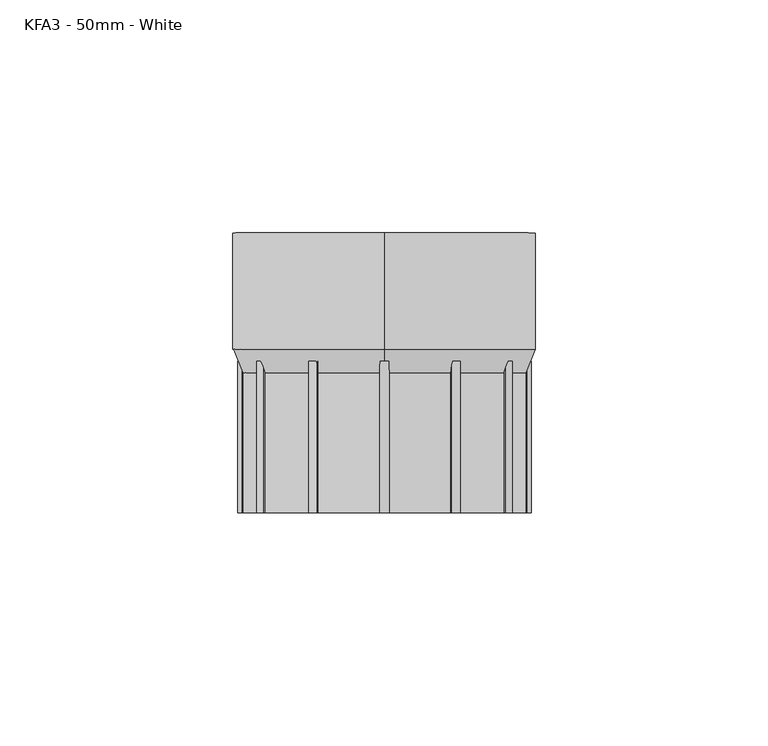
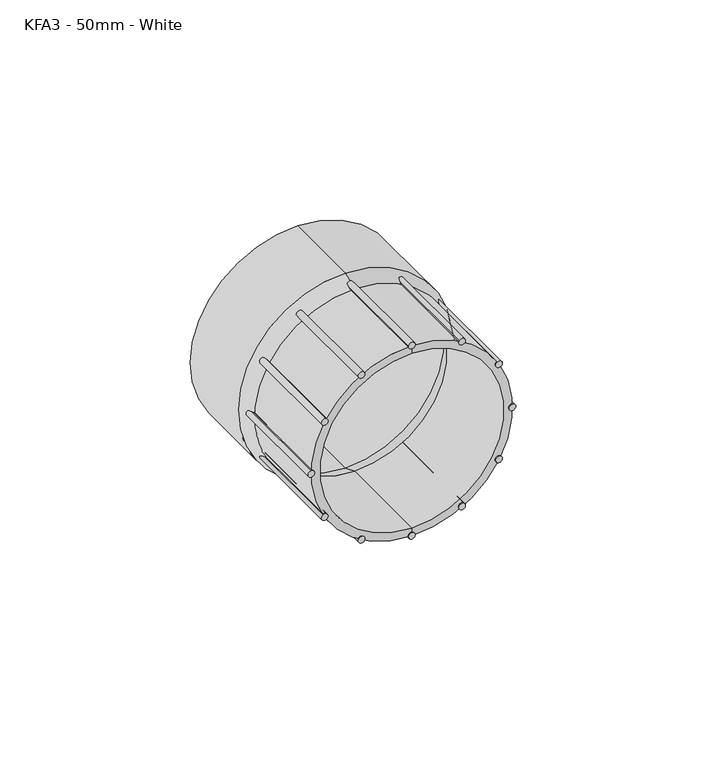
"""IFC4 building model written with IfcOpenShell, lengths in millimetres: pipe fitting geometry, MarleyPlumbingAndDrainage_PipeFitting_FemaleIronAdaptor : KFA3 - 50mm - White."""

import ifcopenshell
import ifcopenshell.guid

model = None  # the IFC model being written
_history = None  # IfcOwnerHistory: only IFC2X3 demands one
_inside = {}  # id of a spatial element -> (the spatial element, [elements in it])
_under = {}  # id of a project, library or spatial element -> (it, [spatial elements below it])
_declared = {}  # id of a project -> (the project, [libraries it declares])
_typed = {}  # id of a type object -> (the type object, [elements of that type])
_made_of = {}  # id of a material, layer set ... -> (it, [elements and type objects made of it])


def new_model(schema):
    """Start an empty IFC model of exactly this schema.

    Asked for "IFC4X3", IfcOpenShell would pick the latest addendum, in which some entities
    have other attributes; the version numbers below select the first issue.
    IFC2X3 requires an IfcOwnerHistory on every rooted entity: one is made here for all.
    """
    global model, _history
    if schema == "IFC4X3":
        model = ifcopenshell.file(schema_version=(4, 3, 0, 0))
    else:
        model = ifcopenshell.file(schema=schema)
    _inside.clear()
    _under.clear()
    _declared.clear()
    _typed.clear()
    _made_of.clear()
    _history = None
    if model.schema == "IFC2X3":
        org = make("IfcOrganization", Name="unknown")
        user = make(
            "IfcPersonAndOrganization",
            ThePerson=make("IfcPerson", FamilyName="unknown"),
            TheOrganization=org,
        )
        app = make(
            "IfcApplication",
            ApplicationDeveloper=org,
            Version="unknown",
            ApplicationFullName="unknown",
            ApplicationIdentifier="unknown",
        )
        _history = make(
            "IfcOwnerHistory",
            OwningUser=user,
            OwningApplication=app,
            ChangeAction="ADDED",
            CreationDate=0,
        )
    return model


def make(cls, **values):
    """One entity of the class cls with the attributes given. An attribute that is None is left unset."""
    return model.create_entity(
        cls, **{name: value for name, value in values.items() if value is not None}
    )


def rooted(cls, **values):
    """An entity with a GlobalId (a new one), such as an element, a storey or a relation."""
    return make(cls, GlobalId=ifcopenshell.guid.new(), OwnerHistory=_history, **values)


def si_unit(unit_type, name, prefix=None):
    """IfcSIUnit, for example si_unit("LENGTHUNIT", "METRE", prefix="MILLI")."""
    return make("IfcSIUnit", UnitType=unit_type, Prefix=prefix, Name=name)


def assignment(units):
    """IfcUnitAssignment: the units of a project."""
    return None if units is None else make("IfcUnitAssignment", Units=units)


def point(xyz):
    """IfcCartesianPoint."""
    return None if xyz is None else make("IfcCartesianPoint", Coordinates=xyz)


def direction(xyz):
    """IfcDirection."""
    return None if xyz is None else make("IfcDirection", DirectionRatios=xyz)


def frame(location, z_axis=None, x_axis=None):
    """IfcAxis2Placement3D, a coordinate frame: its origin and axes. An axis left out is left unset."""
    return make(
        "IfcAxis2Placement3D",
        Location=point(location),
        Axis=direction(z_axis),
        RefDirection=direction(x_axis),
    )


def frame_2d(location, x_axis=None):
    """IfcAxis2Placement2D, a coordinate frame in the plane: its origin and x axis."""
    return make(
        "IfcAxis2Placement2D", Location=point(location), RefDirection=direction(x_axis)
    )


def origin():
    """The frame at (0, 0, 0) with its axes left unset."""
    return frame((0.0, 0.0, 0.0))


def place(relative_to, where):
    """IfcLocalPlacement: puts the frame where relative to a parent placement (None: the world)."""
    return make(
        "IfcLocalPlacement", PlacementRelTo=relative_to, RelativePlacement=where
    )


def context(
    kind, dimensions, precision=None, world=None, true_north=None, identifier=None
):
    """IfcGeometricRepresentationContext, for example the 3D "Model" context."""
    return make(
        "IfcGeometricRepresentationContext",
        ContextIdentifier=identifier,
        ContextType=kind,
        CoordinateSpaceDimension=dimensions,
        Precision=precision,
        WorldCoordinateSystem=world,
        TrueNorth=true_north,
    )


def project(units=None, contexts=None):
    """IfcProject with its units and contexts."""
    return rooted(
        "IfcProject",
        Name="project",
        RepresentationContexts=contexts,
        UnitsInContext=assignment(units),
    )


def spatial(cls, under=None, at=None, **own):
    """A site, building, storey or space (cls), placed at a placement, below another one or the project."""
    s = rooted(cls, ObjectPlacement=at, **own)
    if under is not None:
        _under.setdefault(under.id(), (under, []))[1].append(s)
    return s


def polyline(points):
    """IfcPolyline through the points."""
    return make("IfcPolyline", Points=[point(p) for p in points])


def circle_curve(where, radius):
    """IfcCircle in the frame where."""
    return make("IfcCircle", Position=where, Radius=radius)


def trimmed(basis, trim1, trim2, sense, master):
    """IfcTrimmedCurve: the piece of a basis curve between two trims."""
    return make(
        "IfcTrimmedCurve",
        BasisCurve=basis,
        Trim1=trim1,
        Trim2=trim2,
        SenseAgreement=sense,
        MasterRepresentation=master,
    )


def segment(curve, same_sense, transition):
    """IfcCompositeCurveSegment."""
    return make(
        "IfcCompositeCurveSegment",
        Transition=transition,
        SameSense=same_sense,
        ParentCurve=curve,
    )


def composite_curve(segments, self_intersect=None):
    """IfcCompositeCurve: segments joined end to end."""
    return make("IfcCompositeCurve", Segments=segments, SelfIntersect=self_intersect)


def outline(outer, holes=None, kind="AREA"):
    """IfcArbitraryClosedProfileDef: a profile drawn as a closed curve; with holes, ...WithVoids."""
    if holes is None:
        return make("IfcArbitraryClosedProfileDef", ProfileType=kind, OuterCurve=outer)
    return make(
        "IfcArbitraryProfileDefWithVoids",
        ProfileType=kind,
        OuterCurve=outer,
        InnerCurves=holes,
    )


def extrude(swept, where, along, depth):
    """IfcExtrudedAreaSolid: the profile swept, set in the frame where, extruded along a direction by depth."""
    return make(
        "IfcExtrudedAreaSolid",
        SweptArea=swept,
        Position=where,
        ExtrudedDirection=direction(along),
        Depth=depth,
    )


def shape(context_of_items, identifier, shape_type, items):
    """IfcShapeRepresentation: the items that make up one representation, for example the "Body"."""
    return make(
        "IfcShapeRepresentation",
        ContextOfItems=context_of_items,
        RepresentationIdentifier=identifier,
        RepresentationType=shape_type,
        Items=items,
    )


def source(mapping_origin, context_of_items, identifier, shape_type, items):
    """IfcRepresentationMap: a shape defined once, which mapped items show again and again."""
    return make(
        "IfcRepresentationMap",
        MappingOrigin=mapping_origin,
        MappedRepresentation=shape(context_of_items, identifier, shape_type, items),
    )


def transform(
    local_origin,
    x_axis=None,
    y_axis=None,
    z_axis=None,
    scale=None,
    scale2=None,
    scale3=None,
    uniform=True,
):
    """IfcCartesianTransformationOperator3D, or its non-uniform kind. x_axis, y_axis, z_axis: its Axis1, 2, 3."""
    if uniform:
        return make(
            "IfcCartesianTransformationOperator3D",
            Axis1=direction(x_axis),
            Axis2=direction(y_axis),
            LocalOrigin=point(local_origin),
            Scale=scale,
            Axis3=direction(z_axis),
        )
    return make(
        "IfcCartesianTransformationOperator3DnonUniform",
        Axis1=direction(x_axis),
        Axis2=direction(y_axis),
        LocalOrigin=point(local_origin),
        Scale=scale,
        Axis3=direction(z_axis),
        Scale2=scale2,
        Scale3=scale3,
    )


def mapped(mapping_source, mapping_target):
    """IfcMappedItem: shows the shape of a source again, moved by a transform."""
    return make(
        "IfcMappedItem", MappingSource=mapping_source, MappingTarget=mapping_target
    )


def made_of(thing, what):
    """Note that an element or type object is made of a material, layer set ...; save() writes the relation."""
    if what is not None:
        _made_of.setdefault(what.id(), (what, []))[1].append(thing)
    return thing


def element(
    cls,
    number,
    at=None,
    inside=None,
    cuts=None,
    type_object=None,
    material=None,
    context=None,
    identifier="Body",
    shape_type=None,
    held_by="IfcProductDefinitionShape",
    body=None,
    shapes=None,
    **own,
):
    """One element of the class cls, such as IfcWall. Its Tag is "e" and its number.

    at: its placement. inside: the storey or other place that contains it. cuts: it is an
    opening in that element (IfcRelVoidsElement). A single representation is given by context,
    identifier, shape_type and body (its items); several are given by shapes. held_by: the class
    of the entity that holds the representations. save() writes the other relations.
    """
    e = rooted(cls, Tag="e%d" % number, ObjectPlacement=at, **own)
    if body is not None:
        shapes = [shape(context, identifier, shape_type, body)]
    if shapes is not None:
        e.Representation = make(held_by, Representations=shapes)
    if inside is not None:
        _inside.setdefault(inside.id(), (inside, []))[1].append(e)
    if cuts is not None:
        rooted(
            "IfcRelVoidsElement", RelatingBuildingElement=cuts, RelatedOpeningElement=e
        )
    if type_object is not None:
        _typed.setdefault(type_object.id(), (type_object, []))[1].append(e)
    return made_of(e, material)


def aggregate(whole, parts):
    """IfcRelAggregates: a whole, such as a stair, and the parts it consists of."""
    return rooted("IfcRelAggregates", RelatingObject=whole, RelatedObjects=parts)


def save(model, path):
    """Write the relations noted so far, then the file.

    IfcRelAggregates (storeys below a building ...), IfcRelContainedInSpatialStructure (elements
    in a storey), IfcRelDefinesByType, IfcRelAssociatesMaterial and IfcRelDeclares: one each for
    every whole, place, type object, material and project.
    """
    for whole, parts in _under.values():
        aggregate(whole, parts)
    for where, things in _inside.values():
        rooted(
            "IfcRelContainedInSpatialStructure",
            RelatedElements=things,
            RelatingStructure=where,
        )
    for kind, things in _typed.values():
        rooted("IfcRelDefinesByType", RelatedObjects=things, RelatingType=kind)
    for what, things in _made_of.values():
        rooted("IfcRelAssociatesMaterial", RelatedObjects=things, RelatingMaterial=what)
    for by, libraries in _declared.values():
        rooted("IfcRelDeclares", RelatingContext=by, RelatedDefinitions=libraries)
    model.write(path)


def plane_surface(at):
    """IfcPlane: the flat surface through the origin of the frame at, square to its z axis."""
    return make("IfcPlane", Position=at)


def cylinder_surface(at, radius):
    """IfcCylindricalSurface: all points at the distance radius from the z axis of the frame at."""
    return make("IfcCylindricalSurface", Position=at, Radius=radius)


def revolved_surface(curve, axis_point, axis_direction):
    """IfcSurfaceOfRevolution: the curve turned about the line through axis_point along axis_direction."""
    return make(
        "IfcSurfaceOfRevolution",
        SweptCurve=make("IfcArbitraryOpenProfileDef", ProfileType="CURVE", Curve=curve),
        AxisPosition=make("IfcAxis1Placement", Location=point(axis_point), Axis=direction(axis_direction)),
    )


def advanced_brep(points, edges, surfaces, faces):
    """IfcAdvancedBrep: a solid bounded by faces that lie on surfaces and meet in shared edges.

    An edge is (start, end): straight between two places in points (the first is 0);
    or (start, end, curve); or (start, end, curve, False) where it runs against its curve.
    A face is (place in surfaces, loops), or (place, loops, False) where it looks against
    its surface's normal. A loop lists edges by number (the first is 1), with a minus sign
    where the edge is run from its end to its start. The first loop is the outer one.
    """
    corners = [point(p) for p in points]
    vertices = [make("IfcVertexPoint", VertexGeometry=c) for c in corners]
    made = []
    for start, end, *more in edges:
        made.append(
            make(
                "IfcEdgeCurve",
                EdgeStart=vertices[start],
                EdgeEnd=vertices[end],
                EdgeGeometry=more[0] if more else make("IfcPolyline", Points=[corners[start], corners[end]]),
                SameSense=more[1] if len(more) > 1 else True,
            )
        )
    hull = []
    for where, loops, *sense in faces:
        bounds = []
        for j, loop in enumerate(loops):
            ring = [make("IfcOrientedEdge", EdgeElement=made[abs(k) - 1], Orientation=k > 0) for k in loop]
            bounds.append(
                make(
                    "IfcFaceOuterBound" if j == 0 else "IfcFaceBound",
                    Bound=make("IfcEdgeLoop", EdgeList=ring),
                    Orientation=True,
                )
            )
        hull.append(make("IfcAdvancedFace", Bounds=bounds, FaceSurface=surfaces[where], SameSense=sense[0] if sense else True))
    return make("IfcAdvancedBrep", Outer=make("IfcClosedShell", CfsFaces=hull))


def kfa3_50mm_white_a62e5cf9(model_context):
    return source(origin(), model_context, "Body", "SolidModel", [
        extrude(outline(composite_curve([segment(trimmed(circle_curve(frame_2d((15.25, 11.588393)), 1.0), [point((16.1160254, 11.088393))], [point((14.3839746, 12.088393))], False, "CARTESIAN"), True, "CONTINUOUS"), segment(trimmed(circle_curve(frame_2d((15.25, 11.588393)), 1.0), [point((14.3839746, 12.088393))], [point((16.1160254, 11.088393))], False, "CARTESIAN"), True, "CONTINUOUS")], self_intersect=False)), frame((0.0, -35.0, 0.0), z_axis=(0.0, 1.0, 0.0), x_axis=(0.0, 0.0, 1.0)), (0.0, 0.0, 1.0), 32.5),
        extrude(outline(composite_curve([segment(trimmed(circle_curve(frame_2d((0.0, 15.6746182)), 1.0), [point((1.0, 15.6746182))], [point((-1.0, 15.6746182))], False, "CARTESIAN"), True, "CONTINUOUS"), segment(trimmed(circle_curve(frame_2d((0.0, 15.6746182)), 1.0), [point((-1.0, 15.6746182))], [point((1.0, 15.6746182))], False, "CARTESIAN"), True, "CONTINUOUS")], self_intersect=False)), frame((0.0, -35.0, 0.0), z_axis=(0.0, 1.0, 0.0), x_axis=(0.0, 0.0, 1.0)), (0.0, 0.0, 1.0), 32.5),
        extrude(outline(composite_curve([segment(trimmed(circle_curve(frame_2d((-15.25, 11.588393)), 1.0), [point((-14.3839746, 12.088393))], [point((-16.1160254, 11.088393))], False, "CARTESIAN"), True, "CONTINUOUS"), segment(trimmed(circle_curve(frame_2d((-15.25, 11.588393)), 1.0), [point((-16.1160254, 11.088393))], [point((-14.3839746, 12.088393))], False, "CARTESIAN"), True, "CONTINUOUS")], self_intersect=False)), frame((0.0, -35.0, 0.0), z_axis=(0.0, 1.0, 0.0), x_axis=(0.0, 0.0, 1.0)), (0.0, 0.0, 1.0), 32.5),
        extrude(outline(composite_curve([segment(trimmed(circle_curve(frame_2d((-26.4137748, 0.4246182)), 1.0), [point((-25.9137748, 1.2906436))], [point((-26.9137748, -0.4414072))], False, "CARTESIAN"), True, "CONTINUOUS"), segment(trimmed(circle_curve(frame_2d((-26.4137748, 0.4246182)), 1.0), [point((-26.9137748, -0.4414072))], [point((-25.9137748, 1.2906436))], False, "CARTESIAN"), True, "CONTINUOUS")], self_intersect=False)), frame((0.0, -35.0, 0.0), z_axis=(0.0, 1.0, 0.0), x_axis=(0.0, 0.0, 1.0)), (0.0, 0.0, 1.0), 32.5),
        extrude(outline(composite_curve([segment(trimmed(circle_curve(frame_2d((-30.5, -14.8253818)), 1.0), [point((-30.5, -13.8253818))], [point((-30.5, -15.8253818))], False, "CARTESIAN"), True, "CONTINUOUS"), segment(trimmed(circle_curve(frame_2d((-30.5, -14.8253818)), 1.0), [point((-30.5, -15.8253818))], [point((-30.5, -13.8253818))], False, "CARTESIAN"), True, "CONTINUOUS")], self_intersect=False)), frame((0.0, -35.0, 0.0), z_axis=(0.0, 1.0, 0.0), x_axis=(0.0, 0.0, 1.0)), (0.0, 0.0, 1.0), 32.5),
        extrude(outline(composite_curve([segment(trimmed(circle_curve(frame_2d((-26.4137748, -30.0753818)), 1.0), [point((-26.9137748, -29.2093564))], [point((-25.9137748, -30.9414072))], False, "CARTESIAN"), True, "CONTINUOUS"), segment(trimmed(circle_curve(frame_2d((-26.4137748, -30.0753818)), 1.0), [point((-25.9137748, -30.9414072))], [point((-26.9137748, -29.2093564))], False, "CARTESIAN"), True, "CONTINUOUS")], self_intersect=False)), frame((0.0, -35.0, 0.0), z_axis=(0.0, 1.0, 0.0), x_axis=(0.0, 0.0, 1.0)), (0.0, 0.0, 1.0), 32.5),
        extrude(outline(composite_curve([segment(trimmed(circle_curve(frame_2d((-15.25, -41.2391566)), 1.0), [point((-16.1160254, -40.7391566))], [point((-14.3839746, -41.7391566))], False, "CARTESIAN"), True, "CONTINUOUS"), segment(trimmed(circle_curve(frame_2d((-15.25, -41.2391566)), 1.0), [point((-14.3839746, -41.7391566))], [point((-16.1160254, -40.7391566))], False, "CARTESIAN"), True, "CONTINUOUS")], self_intersect=False)), frame((0.0, -35.0, 0.0), z_axis=(0.0, 1.0, 0.0), x_axis=(0.0, 0.0, 1.0)), (0.0, 0.0, 1.0), 32.5),
        extrude(outline(composite_curve([segment(trimmed(circle_curve(frame_2d((0.0, -45.3253818)), 1.0), [point((-1.0, -45.3253818))], [point((1.0, -45.3253818))], False, "CARTESIAN"), True, "CONTINUOUS"), segment(trimmed(circle_curve(frame_2d((0.0, -45.3253818)), 1.0), [point((1.0, -45.3253818))], [point((-1.0, -45.3253818))], False, "CARTESIAN"), True, "CONTINUOUS")], self_intersect=False)), frame((0.0, -35.0, 0.0), z_axis=(0.0, 1.0, 0.0), x_axis=(0.0, 0.0, 1.0)), (0.0, 0.0, 1.0), 32.5),
        extrude(outline(composite_curve([segment(trimmed(circle_curve(frame_2d((15.25, -41.2391566)), 1.0), [point((14.3839746, -41.7391566))], [point((16.1160254, -40.7391566))], False, "CARTESIAN"), True, "CONTINUOUS"), segment(trimmed(circle_curve(frame_2d((15.25, -41.2391566)), 1.0), [point((16.1160254, -40.7391566))], [point((14.3839746, -41.7391566))], False, "CARTESIAN"), True, "CONTINUOUS")], self_intersect=False)), frame((0.0, -35.0, 0.0), z_axis=(0.0, 1.0, 0.0), x_axis=(0.0, 0.0, 1.0)), (0.0, 0.0, 1.0), 32.5),
        extrude(outline(composite_curve([segment(trimmed(circle_curve(frame_2d((26.4137748, -30.0753818)), 1.0), [point((25.9137748, -30.9414072))], [point((26.9137748, -29.2093564))], False, "CARTESIAN"), True, "CONTINUOUS"), segment(trimmed(circle_curve(frame_2d((26.4137748, -30.0753818)), 1.0), [point((26.9137748, -29.2093564))], [point((25.9137748, -30.9414072))], False, "CARTESIAN"), True, "CONTINUOUS")], self_intersect=False)), frame((0.0, -35.0, 0.0), z_axis=(0.0, 1.0, 0.0), x_axis=(0.0, 0.0, 1.0)), (0.0, 0.0, 1.0), 32.5),
        extrude(outline(composite_curve([segment(trimmed(circle_curve(frame_2d((26.4137748, 0.4246182)), 1.0), [point((26.9137748, -0.4414072))], [point((25.9137748, 1.2906436))], False, "CARTESIAN"), True, "CONTINUOUS"), segment(trimmed(circle_curve(frame_2d((26.4137748, 0.4246182)), 1.0), [point((25.9137748, 1.2906436))], [point((26.9137748, -0.4414072))], False, "CARTESIAN"), True, "CONTINUOUS")], self_intersect=False)), frame((0.0, -35.0, 0.0), z_axis=(0.0, 1.0, 0.0), x_axis=(0.0, 0.0, 1.0)), (0.0, 0.0, 1.0), 32.5),
        extrude(outline(composite_curve([segment(trimmed(circle_curve(frame_2d((30.5, -14.8253818)), 1.0), [point((30.5, -15.8253818))], [point((30.5, -13.8253818))], False, "CARTESIAN"), True, "CONTINUOUS"), segment(trimmed(circle_curve(frame_2d((30.5, -14.8253818)), 1.0), [point((30.5, -13.8253818))], [point((30.5, -15.8253818))], False, "CARTESIAN"), True, "CONTINUOUS")], self_intersect=False)), frame((0.0, -35.0, 0.0), z_axis=(0.0, 1.0, 0.0), x_axis=(0.0, 0.0, 1.0)), (0.0, 0.0, 1.0), 32.5),
        advanced_brep(
        [(-14.8253818, -35.0, -28.0), (-14.8253818, -35.0, 28.0), (-14.8253818, -35.0, 30.5), (-14.8253818, -35.0, -30.5), (-14.8253818, -5.0, -28.0), (-14.8253818, -5.0, 28.0), (-14.8253818, 0.0, -30.0), (-14.8253818, 0.0, 30.0), (-14.8253818, 25.0, -30.0), (-14.8253818, 25.0, 30.0), (-14.8253818, 25.0, -32.5), (-14.8253818, 25.0, 32.5), (-14.8253818, 0.0, -32.5), (-14.8253818, 0.0, 32.5), (-14.8253818, -5.0, -30.5), (-14.8253818, -5.0, 30.5)],
        [
            (0, 1, circle_curve(frame((-14.8253818, -35.0, 0.0), z_axis=(0.0, 1.0, 0.0), x_axis=(0.0, 0.0, 1.0)), 28.0)),
            (1, 2),
            (2, 3, circle_curve(frame((-14.8253818, -35.0, 0.0), z_axis=(0.0, -1.0, 0.0), x_axis=(0.0, 0.0, 1.0)), 30.5)),
            (3, 0),
            (1, 0, circle_curve(frame((-14.8253818, -35.0, 0.0), z_axis=(0.0, 1.0, 0.0), x_axis=(0.0, 0.0, 1.0)), 28.0)),
            (3, 2, circle_curve(frame((-14.8253818, -35.0, 0.0), z_axis=(0.0, -1.0, 0.0), x_axis=(0.0, 0.0, 1.0)), 30.5)),
            (4, 5, circle_curve(frame((-14.8253818, -5.0, 0.0), z_axis=(0.0, 1.0, 0.0), x_axis=(0.0, 0.0, 1.0)), 28.0)),
            (5, 1),
            (0, 4),
            (5, 4, circle_curve(frame((-14.8253818, -5.0, 0.0), z_axis=(0.0, 1.0, 0.0), x_axis=(0.0, 0.0, 1.0)), 28.0)),
            (6, 7, circle_curve(frame((-14.8253818, 0.0, 0.0), z_axis=(0.0, 1.0, 0.0), x_axis=(0.0, 0.0, 1.0)), 30.0)),
            (7, 5),
            (4, 6),
            (7, 6, circle_curve(frame((-14.8253818, 0.0, 0.0), z_axis=(0.0, 1.0, 0.0), x_axis=(0.0, 0.0, 1.0)), 30.0)),
            (8, 9, circle_curve(frame((-14.8253818, 25.0, 0.0), z_axis=(0.0, 1.0, 0.0), x_axis=(0.0, 0.0, 1.0)), 30.0)),
            (9, 7),
            (6, 8),
            (9, 8, circle_curve(frame((-14.8253818, 25.0, 0.0), z_axis=(0.0, 1.0, 0.0), x_axis=(0.0, 0.0, 1.0)), 30.0)),
            (10, 11, circle_curve(frame((-14.8253818, 25.0, 0.0), z_axis=(0.0, 1.0, 0.0), x_axis=(0.0, 0.0, 1.0)), 32.5)),
            (11, 9),
            (8, 10),
            (11, 10, circle_curve(frame((-14.8253818, 25.0, 0.0), z_axis=(0.0, 1.0, 0.0), x_axis=(0.0, 0.0, 1.0)), 32.5)),
            (12, 13, circle_curve(frame((-14.8253818, 0.0, 0.0), z_axis=(0.0, 1.0, 0.0), x_axis=(0.0, 0.0, 1.0)), 32.5)),
            (13, 11),
            (10, 12),
            (13, 12, circle_curve(frame((-14.8253818, 0.0, 0.0), z_axis=(0.0, 1.0, 0.0), x_axis=(0.0, 0.0, 1.0)), 32.5)),
            (14, 15, circle_curve(frame((-14.8253818, -5.0, 0.0), z_axis=(0.0, 1.0, 0.0), x_axis=(0.0, 0.0, 1.0)), 30.5)),
            (15, 13),
            (12, 14),
            (15, 14, circle_curve(frame((-14.8253818, -5.0, 0.0), z_axis=(0.0, 1.0, 0.0), x_axis=(0.0, 0.0, 1.0)), 30.5)),
            (2, 15),
            (14, 3),
        ],
        [
            plane_surface(frame((-14.8253818, -35.0, 0.0), z_axis=(0.0, -1.0, 0.0), x_axis=(0.0, 0.0, 1.0))),
            revolved_surface(polyline([(-14.8253818, -35.0, 28.0), (-14.8253818, -5.0, 28.0)]), (-14.8253818, 1632.5437807, 0.0), (0.0, -1.0, 0.0)),
            revolved_surface(polyline([(-14.8253818, -5.0, 28.0), (-14.8253818, 0.0, 30.0)]), (-14.8253818, 1632.5437807, 0.0), (0.0, -1.0, 0.0)),
            revolved_surface(polyline([(-14.8253818, 0.0, 30.0), (-14.8253818, 25.0, 30.0)]), (-14.8253818, 1632.5437807, 0.0), (0.0, -1.0, 0.0)),
            plane_surface(frame((-14.8253818, 25.0, 0.0), z_axis=(0.0, 1.0, 0.0), x_axis=(0.0, 0.0, 1.0))),
            cylinder_surface(frame((-14.8253818, 1632.5437807, 0.0), z_axis=(0.0, -1.0, 0.0), x_axis=(0.0, 0.0, 1.0)), 32.5),
            revolved_surface(polyline([(-14.8253818, 0.0, 32.5), (-14.8253818, -5.0, 30.5)]), (-14.8253818, 1632.5437807, 0.0), (0.0, -1.0, 0.0)),
            cylinder_surface(frame((-14.8253818, 1632.5437807, 0.0), z_axis=(0.0, -1.0, 0.0), x_axis=(0.0, 0.0, 1.0)), 30.5),
        ],
        [
            (0, [[1, 2, 3, 4]]),
            (0, [[5, -4, 6, -2]]),
            (1, [[7, 8, -1, 9]]),
            (1, [[10, -9, -5, -8]]),
            (2, [[11, 12, -7, 13]]),
            (2, [[14, -13, -10, -12]]),
            (3, [[15, 16, -11, 17]]),
            (3, [[18, -17, -14, -16]]),
            (4, [[19, 20, -15, 21]]),
            (4, [[22, -21, -18, -20]]),
            (5, [[23, 24, -19, 25]]),
            (5, [[26, -25, -22, -24]]),
            (6, [[27, 28, -23, 29]]),
            (6, [[30, -29, -26, -28]]),
            (7, [[-3, 31, -27, 32]]),
            (7, [[-6, -32, -30, -31]]),
        ],
    ),
    ])


if __name__ == "__main__":
    model = new_model("IFC4")
    model_context = context("Model", 3, world=origin())
    ifc_project = project(units=[si_unit("LENGTHUNIT", "METRE", prefix="MILLI")], contexts=[model_context])
    site = spatial("IfcSite", under=ifc_project)
    building = spatial("IfcBuilding", under=site)
    placement = place(None, origin())
    kfa3_50mm_white_shape = kfa3_50mm_white_a62e5cf9(model_context)
    element("IfcPipeFitting", 1, ObjectType="MarleyPlumbingAndDrainage_PipeFitting_FemaleIronAdaptor : KFA3 - 50mm - White", at=placement, inside=building, context=model_context, shape_type="MappedRepresentation", body=[
        mapped(kfa3_50mm_white_shape, transform((0.0, 0.0, 0.0), x_axis=(1.0, 0.0, 0.0), y_axis=(0.0, 1.0, 0.0), z_axis=(0.0, 0.0, 1.0))),
    ])
    save(model, "model.ifc")
